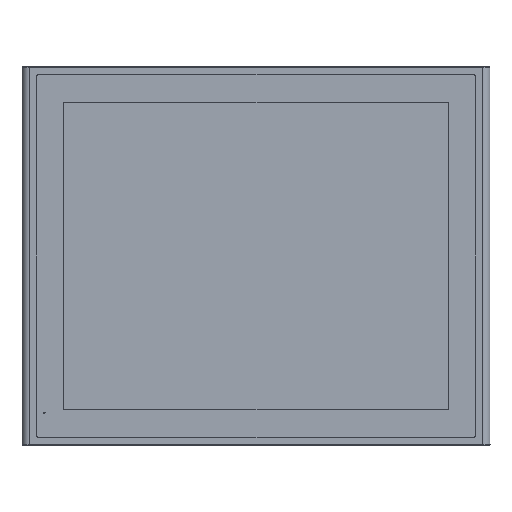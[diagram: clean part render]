
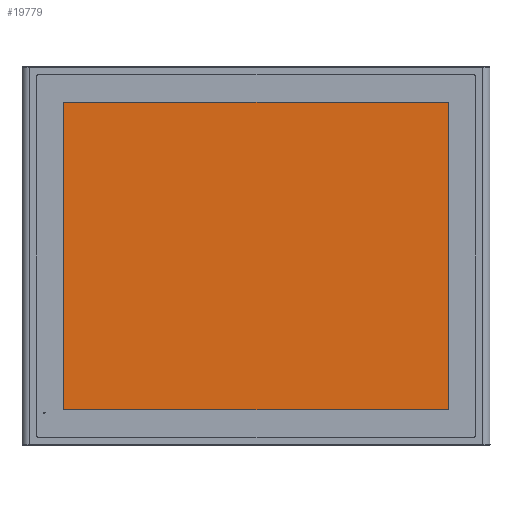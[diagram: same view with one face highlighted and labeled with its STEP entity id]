
A CAD part, front view. The second image highlights one B-rep face of the part: STEP entity #19779.
In plain terms, the highlighted planar face has unit normal (0, -1, 0).
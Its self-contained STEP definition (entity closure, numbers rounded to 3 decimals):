
#5392=DIRECTION('',(-1.,0.,0.));
#5393=VECTOR('',#5392,368.62);
#5394=CARTESIAN_POINT('',(184.31,-4.9,-150.52));
#5395=LINE('',#5394,#5393);
#5396=DIRECTION('',(0.,0.,1.));
#5397=VECTOR('',#5396,301.04);
#5398=CARTESIAN_POINT('',(-184.31,-4.9,-150.52));
#5399=LINE('',#5398,#5397);
#5472=DIRECTION('',(-1.,0.,0.));
#5473=VECTOR('',#5472,368.62);
#5474=CARTESIAN_POINT('',(184.31,-4.9,150.52));
#5475=LINE('',#5474,#5473);
#5484=DIRECTION('',(0.,0.,1.));
#5485=VECTOR('',#5484,301.04);
#5486=CARTESIAN_POINT('',(184.31,-4.9,-150.52));
#5487=LINE('',#5486,#5485);
#13057=CARTESIAN_POINT('',(184.31,-4.9,-150.52));
#13058=CARTESIAN_POINT('',(-184.31,-4.9,-150.52));
#13059=VERTEX_POINT('',#13057);
#13060=VERTEX_POINT('',#13058);
#13061=CARTESIAN_POINT('',(184.31,-4.9,150.52));
#13062=VERTEX_POINT('',#13061);
#13063=CARTESIAN_POINT('',(-184.31,-4.9,150.52));
#13064=VERTEX_POINT('',#13063);
#19765=CARTESIAN_POINT('',(0.,-4.9,0.));
#19766=DIRECTION('',(0.,1.,0.));
#19767=DIRECTION('',(-1.,0.,0.));
#19768=AXIS2_PLACEMENT_3D('',#19765,#19766,#19767);
#19769=PLANE('',#19768);
#19770=ORIENTED_EDGE('',*,*,#19755,.T.);
#19772=ORIENTED_EDGE('',*,*,#19771,.T.);
#19774=ORIENTED_EDGE('',*,*,#19773,.F.);
#19776=ORIENTED_EDGE('',*,*,#19775,.F.);
#19777=EDGE_LOOP('',(#19770,#19772,#19774,#19776));
#19778=FACE_OUTER_BOUND('',#19777,.F.);
#19779=ADVANCED_FACE('',(#19778),#19769,.F.);
#19755=EDGE_CURVE('',#13059,#13060,#5395,.T.);
#19771=EDGE_CURVE('',#13060,#13064,#5399,.T.);
#19773=EDGE_CURVE('',#13062,#13064,#5475,.T.);
#19775=EDGE_CURVE('',#13059,#13062,#5487,.T.);
